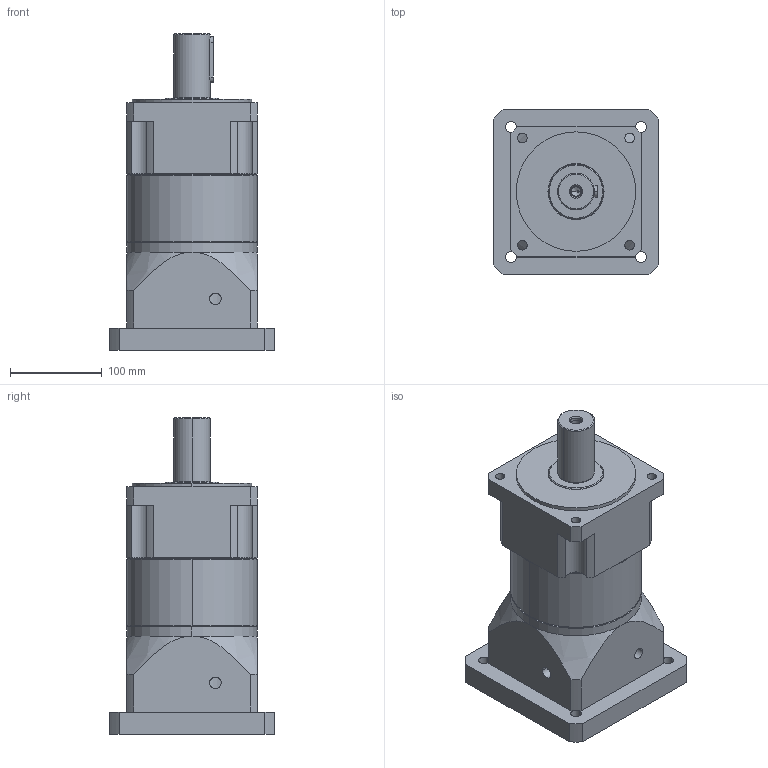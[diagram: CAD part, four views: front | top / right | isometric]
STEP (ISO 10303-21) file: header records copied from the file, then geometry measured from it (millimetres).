
FILE_DESCRIPTION (( 'STEP AP203' ), '1' );
FILE_NAME ('GNP150L2-35-114.3-200-M12.STEP', '2012-11-27T06:02:56', ( 'user' ), ( 'SYNNEX' ), 'SwSTEP 2.0', 'SolidWorks 2008', '' );
FILE_SCHEMA (( 'CONFIG_CONTROL_DESIGN' ));
Length unit declared in the file: millimetre
Products named in the file (1): GNP150L2-35-114.3-200-M12
Bounding box: 180 x 180 x 344.2 mm (x, y, z)
Volume: 3898660.2 mm3; surface area: 587123.2 mm2
Topology: 13 solids, 13 shells, 1057 faces, 2478 edges, 1482 vertices
Faces by surface type: cylinder 467, cone 289, plane 209, torus 82, bspline 10
Entity records: 32777 total; most frequent: CARTESIAN_POINT 7967, DIRECTION 5652, ORIENTED_EDGE 4800, EDGE_CURVE 2400, AXIS2_PLACEMENT_3D 2375, VERTEX_POINT 1482, CIRCLE 1327, EDGE_LOOP 1290
